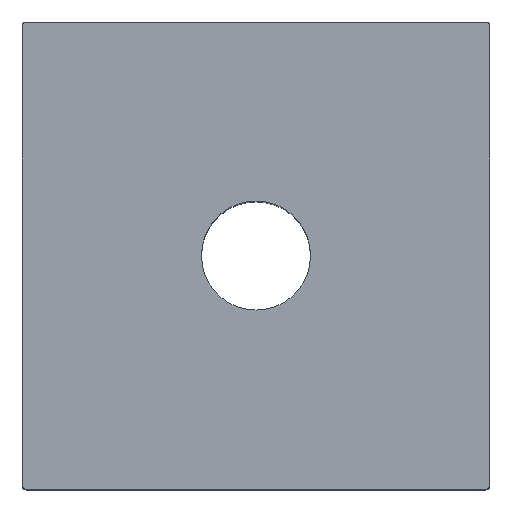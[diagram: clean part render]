
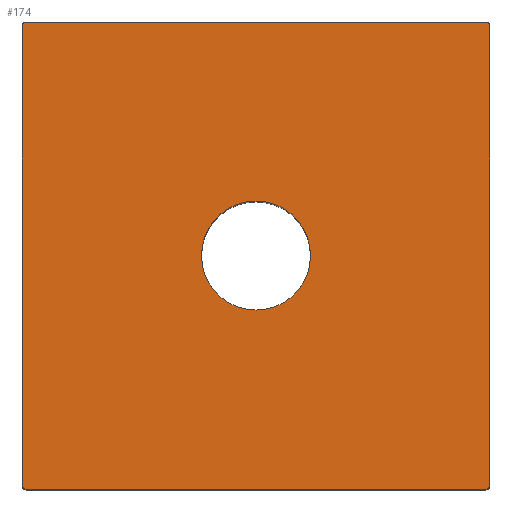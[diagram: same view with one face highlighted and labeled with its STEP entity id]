
A CAD part, top view. The second image highlights one B-rep face of the part: STEP entity #174.
In plain terms, the highlighted planar face has unit normal (0, 0, 1).
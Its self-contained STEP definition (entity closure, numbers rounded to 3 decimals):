
#174=ADVANCED_FACE('',(#213,#214),#202,.T.);
#202=PLANE('',#625);
#213=FACE_BOUND('',#217,.T.);
#214=FACE_BOUND('',#218,.T.);
#217=EDGE_LOOP('',(#323,#324,#325,#326,#327,#328,#329,#330));
#218=EDGE_LOOP('',(#331,#332));
#249=LINE('',#781,#283);
#250=LINE('',#785,#284);
#251=LINE('',#789,#285);
#252=LINE('',#793,#286);
#283=VECTOR('',#670,1.);
#284=VECTOR('',#673,1.);
#285=VECTOR('',#676,1.);
#286=VECTOR('',#679,1.);
#323=ORIENTED_EDGE('',*,*,#531,.T.);
#324=ORIENTED_EDGE('',*,*,#532,.T.);
#325=ORIENTED_EDGE('',*,*,#533,.T.);
#326=ORIENTED_EDGE('',*,*,#534,.T.);
#327=ORIENTED_EDGE('',*,*,#535,.T.);
#328=ORIENTED_EDGE('',*,*,#536,.T.);
#329=ORIENTED_EDGE('',*,*,#537,.T.);
#330=ORIENTED_EDGE('',*,*,#538,.T.);
#331=ORIENTED_EDGE('',*,*,#539,.T.);
#332=ORIENTED_EDGE('',*,*,#540,.T.);
#479=VERTEX_POINT('',#779);
#480=VERTEX_POINT('',#780);
#481=VERTEX_POINT('',#782);
#482=VERTEX_POINT('',#784);
#483=VERTEX_POINT('',#786);
#484=VERTEX_POINT('',#788);
#485=VERTEX_POINT('',#790);
#486=VERTEX_POINT('',#792);
#487=VERTEX_POINT('',#795);
#488=VERTEX_POINT('',#796);
#531=EDGE_CURVE('',#479,#480,#605,.T.);
#532=EDGE_CURVE('',#480,#481,#249,.T.);
#533=EDGE_CURVE('',#481,#482,#606,.T.);
#534=EDGE_CURVE('',#482,#483,#250,.T.);
#535=EDGE_CURVE('',#483,#484,#607,.T.);
#536=EDGE_CURVE('',#484,#485,#251,.T.);
#537=EDGE_CURVE('',#485,#486,#608,.T.);
#538=EDGE_CURVE('',#486,#479,#252,.T.);
#539=EDGE_CURVE('',#487,#488,#609,.T.);
#540=EDGE_CURVE('',#488,#487,#610,.T.);
#605=CIRCLE('',#619,0.5);
#606=CIRCLE('',#620,0.5);
#607=CIRCLE('',#621,0.5);
#608=CIRCLE('',#622,0.5);
#609=CIRCLE('',#623,7.);
#610=CIRCLE('',#624,7.);
#619=AXIS2_PLACEMENT_3D('',#778,#668,#669);
#620=AXIS2_PLACEMENT_3D('',#783,#671,#672);
#621=AXIS2_PLACEMENT_3D('',#787,#674,#675);
#622=AXIS2_PLACEMENT_3D('',#791,#677,#678);
#623=AXIS2_PLACEMENT_3D('',#794,#680,#681);
#624=AXIS2_PLACEMENT_3D('',#797,#682,#683);
#625=AXIS2_PLACEMENT_3D('',#798,#684,#685);
#668=DIRECTION('',(0.,0.,1.));
#669=DIRECTION('',(-0.707,0.707,0.));
#670=DIRECTION('',(0.,1.,0.));
#671=DIRECTION('',(0.,0.,1.));
#672=DIRECTION('',(-0.707,-0.707,0.));
#673=DIRECTION('',(-1.,0.,0.));
#674=DIRECTION('',(0.,0.,1.));
#675=DIRECTION('',(0.707,-0.707,0.));
#676=DIRECTION('',(0.,-1.,0.));
#677=DIRECTION('',(0.,0.,1.));
#678=DIRECTION('',(0.707,0.707,0.));
#679=DIRECTION('',(1.,0.,0.));
#680=DIRECTION('',(0.,0.,-1.));
#681=DIRECTION('',(-1.,0.,0.));
#682=DIRECTION('',(0.,0.,-1.));
#683=DIRECTION('',(1.,0.,0.));
#684=DIRECTION('',(0.,0.,1.));
#685=DIRECTION('',(-1.,0.,0.));
#778=CARTESIAN_POINT('',(29.5,-29.5,62.));
#779=CARTESIAN_POINT('',(29.5,-30.,62.));
#780=CARTESIAN_POINT('',(30.,-29.5,62.));
#781=CARTESIAN_POINT('',(30.,-29.5,62.));
#782=CARTESIAN_POINT('',(30.,29.5,62.));
#783=CARTESIAN_POINT('',(29.5,29.5,62.));
#784=CARTESIAN_POINT('',(29.5,30.,62.));
#785=CARTESIAN_POINT('',(-29.5,30.,62.));
#786=CARTESIAN_POINT('',(-29.5,30.,62.));
#787=CARTESIAN_POINT('',(-29.5,29.5,62.));
#788=CARTESIAN_POINT('',(-30.,29.5,62.));
#789=CARTESIAN_POINT('',(-30.,-29.5,62.));
#790=CARTESIAN_POINT('',(-30.,-29.5,62.));
#791=CARTESIAN_POINT('',(-29.5,-29.5,62.));
#792=CARTESIAN_POINT('',(-29.5,-30.,62.));
#793=CARTESIAN_POINT('',(-29.5,-30.,62.));
#794=CARTESIAN_POINT('',(0.,0.,62.));
#795=CARTESIAN_POINT('',(0.,7.,62.));
#796=CARTESIAN_POINT('',(0.,-7.,62.));
#797=CARTESIAN_POINT('',(0.,0.,62.));
#798=CARTESIAN_POINT('',(29.5,-30.,62.));
